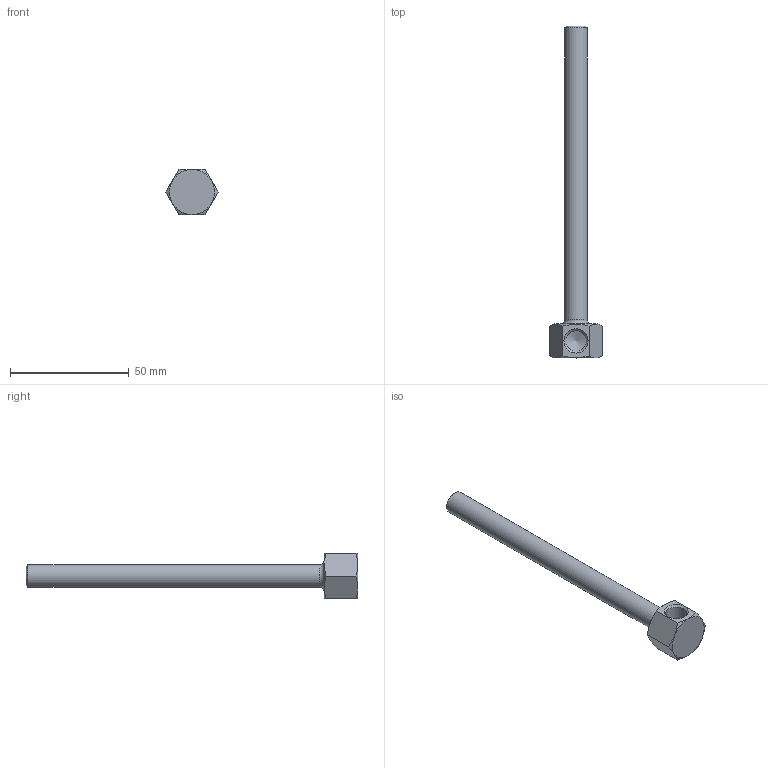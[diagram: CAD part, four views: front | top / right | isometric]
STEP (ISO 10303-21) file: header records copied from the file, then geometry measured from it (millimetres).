
FILE_DESCRIPTION(/* description */ (''),/* implementation_level */ '2;1');
FILE_NAME(/* name */ 'C:/Users/drich/Desktop/18B-5-1_2 v1.step',/* time_stamp */ '2019-12-29T15:20:51-06:00',/* author */ (''),/* organization */ (''),/* preprocessor_version */ 'ST-DEVELOPER v18',/* originating_system */ 'Autodesk Translation Framework v8.12.0.6',/* authorisation */ '');
FILE_SCHEMA (('AUTOMOTIVE_DESIGN { 1 0 10303 214 3 1 1 }'));
Length unit declared in the file: inch
Products named in the file (1): 18B-5-1_2
Bounding box: 22 x 139.7 x 19.05 mm (x, y, z)
Volume: 8733.9 mm3; surface area: 8136.5 mm2
Topology: 1 solids, 1 shells, 19 faces, 48 edges, 31 vertices
Faces by surface type: plane 9, cone 6, cylinder 3, torus 1
Full cylindrical faces by diameter (mm): 6.35 x1, 8.707 x1, 9.621 x1
Entity records: 633 total; most frequent: CARTESIAN_POINT 159, ORIENTED_EDGE 94, DIRECTION 89, EDGE_CURVE 47, AXIS2_PLACEMENT_3D 37, VERTEX_POINT 31, EDGE_LOOP 22, FACE_OUTER_BOUND 19
